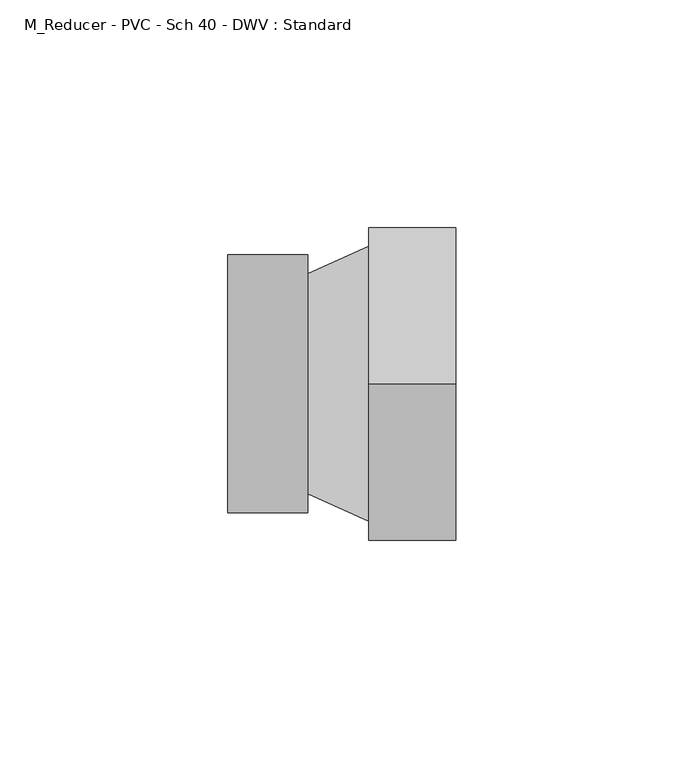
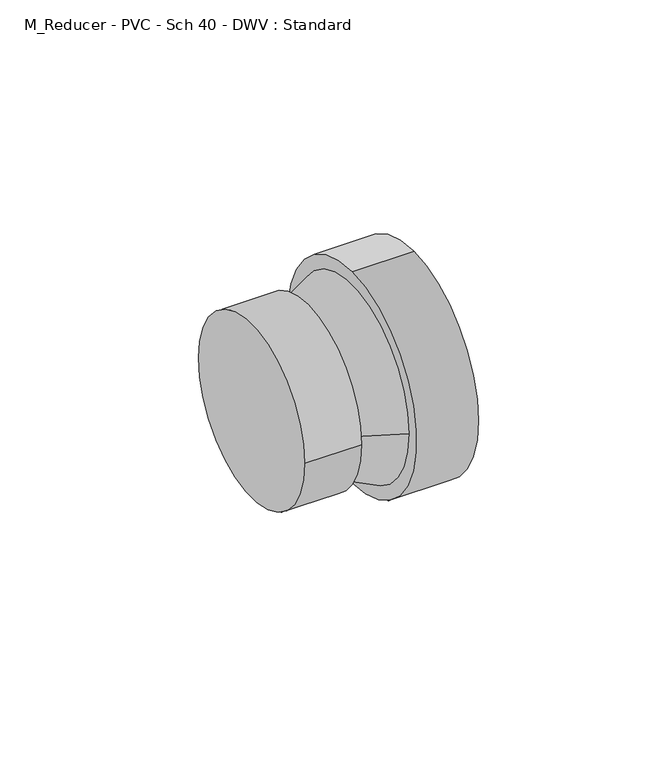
"""IFC4 building model written with IfcOpenShell, lengths in millimetres: pipe fitting geometry, M_Reducer - PVC - Sch 40 - DWV : Standard."""

from ifc_helpers import new_model, si_unit, frame, origin, place, context, project, spatial, polyline, circle_curve, source, transform, mapped, element, save
from ifc_brep_helpers import plane_surface, cylinder_surface, revolved_surface, advanced_brep


def m_reducer_pvc_sch_40_dwv_standard_230e9924(model_context):
    return source(origin(), model_context, "Body", "AdvancedBrep", [
        advanced_brep(
        [(0.0, -28.2829, 0.0), (0.0, 28.2829, 0.0), (17.4498, -28.2829, 0.0), (17.4498, 28.2829, 0.0), (17.4498, 24.13, 0.0), (17.4498, -24.13, 0.0), (30.9372, 30.1625, 0.0), (30.9372, -30.1625, 0.0), (30.9372, 0.0, 34.3154), (30.9372, 0.0, -34.3154), (49.9872, 0.0, 34.3154), (49.9872, 0.0, -34.3154)],
        [
            (0, 1, circle_curve(frame((0.0, 0.0, 0.0), z_axis=(-1.0, 0.0, 0.0), x_axis=(0.0, 1.0, 0.0)), 28.2829)),
            (1, 0, circle_curve(frame((0.0, 0.0, 0.0), z_axis=(-1.0, 0.0, 0.0), x_axis=(0.0, 1.0, 0.0)), 28.2829)),
            (2, 3, circle_curve(frame((17.4498, 0.0, 0.0), z_axis=(1.0, 0.0, 0.0), x_axis=(0.0, 1.0, 0.0)), 28.2829)),
            (3, 2, circle_curve(frame((17.4498, 0.0, 0.0), z_axis=(1.0, 0.0, 0.0), x_axis=(0.0, 1.0, 0.0)), 28.2829)),
            (4, 5, circle_curve(frame((17.4498, 0.0, 0.0), z_axis=(-1.0, 0.0, 0.0), x_axis=(0.0, -1.0, 0.0)), 24.13)),
            (5, 4, circle_curve(frame((17.4498, 0.0, 0.0), z_axis=(-1.0, 0.0, 0.0), x_axis=(0.0, 1.0, 0.0)), 24.13)),
            (0, 2),
            (3, 1),
            (4, 6),
            (6, 7, circle_curve(frame((30.9372, 0.0, 0.0), z_axis=(-1.0, 0.0, 0.0), x_axis=(0.0, -1.0, 0.0)), 30.1625)),
            (7, 5),
            (7, 6, circle_curve(frame((30.9372, 0.0, 0.0), z_axis=(-1.0, 0.0, 0.0), x_axis=(0.0, 1.0, 0.0)), 30.1625)),
            (8, 9, circle_curve(frame((30.9372, 0.0, 0.0), z_axis=(-1.0, 0.0, 0.0), x_axis=(0.0, 0.0, -1.0)), 34.3154)),
            (9, 8, circle_curve(frame((30.9372, 0.0, 0.0), z_axis=(-1.0, 0.0, 0.0), x_axis=(0.0, 0.0, -1.0)), 34.3154)),
            (10, 11, circle_curve(frame((49.9872, 0.0, 0.0), z_axis=(1.0, 0.0, 0.0), x_axis=(0.0, 0.0, -1.0)), 34.3154)),
            (11, 10, circle_curve(frame((49.9872, 0.0, 0.0), z_axis=(1.0, 0.0, 0.0), x_axis=(0.0, 0.0, -1.0)), 34.3154)),
            (8, 10),
            (11, 9),
        ],
        [
            plane_surface(frame((0.0, 0.0, 0.0), z_axis=(-1.0, 0.0, 0.0), x_axis=(0.0, 0.0, 1.0))),
            plane_surface(frame((17.4498, 0.0, 0.0), z_axis=(1.0, 0.0, 0.0), x_axis=(0.0, 0.0, 1.0))),
            cylinder_surface(frame((0.0, 0.0, 0.0), z_axis=(-1.0, 0.0, 0.0), x_axis=(0.0, 1.0, 0.0)), 28.2829),
            revolved_surface(polyline([(17.449800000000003, 24.130000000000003, 0.0), (30.937199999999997, 30.1625, 0.0)]), (-36.4998, 0.0, 0.0), (1.0, 0.0, 0.0)),
            plane_surface(frame((30.9372, 0.0, 0.0), z_axis=(-1.0, 0.0, 0.0), x_axis=(0.0, 1.0, 0.0))),
            plane_surface(frame((49.9872, 0.0, 0.0), z_axis=(1.0, 0.0, 0.0), x_axis=(0.0, 1.0, 0.0))),
            cylinder_surface(frame((30.9372, 0.0, 0.0), z_axis=(-1.0, 0.0, 0.0), x_axis=(0.0, 0.0, -1.0)), 34.3154),
        ],
        [
            (0, [[1, 2]]),
            (1, [[3, 4], [5, 6]]),
            (2, [[-1, 7, -4, 8]]),
            (2, [[-2, -8, -3, -7]]),
            (3, [[9, 10, 11, -5]]),
            (3, [[-9, -6, -11, 12]]),
            (4, [[13, 14], [-10, -12]]),
            (5, [[15, 16]]),
            (6, [[-13, 17, -16, 18]]),
            (6, [[-14, -18, -15, -17]]),
        ],
    ),
    ])


if __name__ == "__main__":
    model = new_model("IFC4")
    model_context = context("Model", 3, world=origin())
    ifc_project = project(units=[si_unit("LENGTHUNIT", "METRE", prefix="MILLI")], contexts=[model_context])
    site = spatial("IfcSite", under=ifc_project)
    building = spatial("IfcBuilding", under=site)
    placement = place(None, origin())
    m_reducer_pvc_sch_40_dwv_standard_shape = m_reducer_pvc_sch_40_dwv_standard_230e9924(model_context)
    element("IfcPipeFitting", 1, ObjectType="M_Reducer - PVC - Sch 40 - DWV : Standard", at=placement, inside=building, context=model_context, shape_type="MappedRepresentation", body=[
        mapped(m_reducer_pvc_sch_40_dwv_standard_shape, transform((0.0, 0.0, 0.0), x_axis=(1.0, 0.0, 0.0), y_axis=(0.0, 1.0, 0.0), z_axis=(0.0, 0.0, 1.0))),
    ])
    save(model, "model.ifc")
